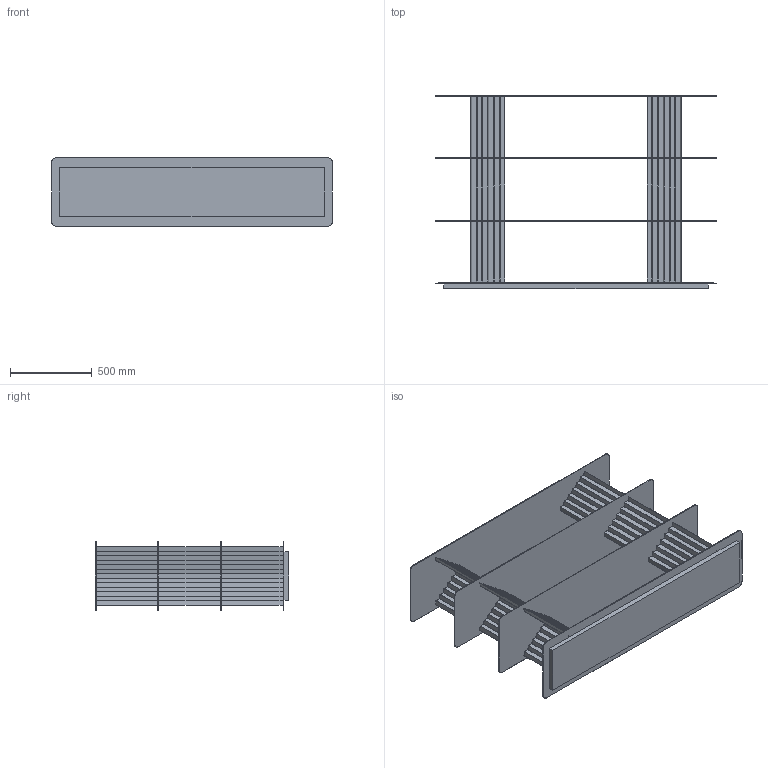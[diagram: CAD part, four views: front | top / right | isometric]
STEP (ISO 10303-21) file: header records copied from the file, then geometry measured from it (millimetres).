
FILE_DESCRIPTION (( 'STEP AP203' ), '1' );
FILE_NAME ('PLEC SHELVES S 3 NIVELES.STEP', '2025-05-08T10:12:07', ( '' ), ( '' ), 'SwSTEP 2.0', 'SolidWorks 2020', '' );
FILE_SCHEMA (( 'CONFIG_CONTROL_DESIGN' ));
Length unit declared in the file: millimetre
Products named in the file (1): PLEC SHELVES S 3 NIVELES
Bounding box: 1723 x 1187 x 420 mm (x, y, z)
Volume: 31498726.2 mm3; surface area: 10256101.4 mm2
Topology: 11 solids, 11 shells, 370 faces, 1044 edges, 696 vertices
Faces by surface type: plane 354, cylinder 16
Entity records: 11797 total; most frequent: CARTESIAN_POINT 2111, ORIENTED_EDGE 2088, DIRECTION 1818, EDGE_CURVE 1044, LINE 1012, VECTOR 1012, VERTEX_POINT 696, AXIS2_PLACEMENT_3D 403
